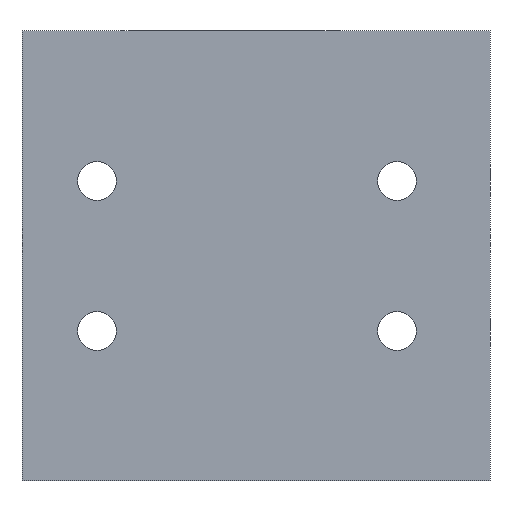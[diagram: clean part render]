
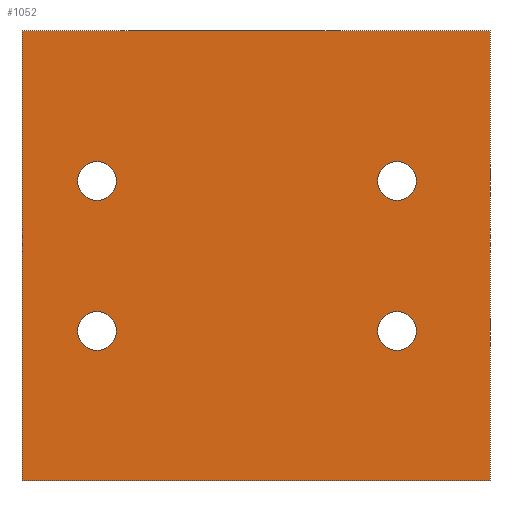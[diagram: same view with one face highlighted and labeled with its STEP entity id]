
A CAD part, front view. The second image highlights one B-rep face of the part: STEP entity #1052.
In plain terms, the highlighted planar face has unit normal (0, -1, 0).
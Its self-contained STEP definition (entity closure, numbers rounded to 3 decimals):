
#25 = ORIENTED_EDGE ( 'NONE', *, *, #1090, .T. ) ;
#52 = CARTESIAN_POINT ( 'NONE',  ( -15.5, 0., -9.25 ) ) ;
#66 = DIRECTION ( 'NONE',  ( 0., -1., 0. ) ) ;
#84 = CIRCLE ( 'NONE', #552, 3.25 ) ;
#105 = VERTEX_POINT ( 'NONE', #136 ) ;
#136 = CARTESIAN_POINT ( 'NONE',  ( 0., 0., -37.5 ) ) ;
#165 = CARTESIAN_POINT ( 'NONE',  ( -65.5, 0., 9.25 ) ) ;
#171 = CARTESIAN_POINT ( 'NONE',  ( -65.5, 0., -15.75 ) ) ;
#182 = CARTESIAN_POINT ( 'NONE',  ( -15.5, 0., -15.75 ) ) ;
#204 = AXIS2_PLACEMENT_3D ( 'NONE', #1572, #1748, #231 ) ;
#206 = PLANE ( 'NONE',  #1133 ) ;
#218 = CIRCLE ( 'NONE', #726, 3.25 ) ;
#222 = EDGE_LOOP ( 'NONE', ( #1266, #556, #1909, #480 ) ) ;
#231 = DIRECTION ( 'NONE',  ( 0., 0., 1. ) ) ;
#254 = ORIENTED_EDGE ( 'NONE', *, *, #1561, .T. ) ;
#263 = ORIENTED_EDGE ( 'NONE', *, *, #1641, .T. ) ;
#276 = CARTESIAN_POINT ( 'NONE',  ( -65.5, 0., -12.5 ) ) ;
#314 = DIRECTION ( 'NONE',  ( 0., 0., 1. ) ) ;
#349 = ORIENTED_EDGE ( 'NONE', *, *, #1863, .T. ) ;
#387 = EDGE_CURVE ( 'NONE', #935, #1663, #1116, .T. ) ;
#391 = AXIS2_PLACEMENT_3D ( 'NONE', #2066, #1406, #1910 ) ;
#403 = CIRCLE ( 'NONE', #713, 3.25 ) ;
#409 = CARTESIAN_POINT ( 'NONE',  ( -15.5, 0., 12.5 ) ) ;
#418 = DIRECTION ( 'NONE',  ( 0., 0., -1. ) ) ;
#434 = EDGE_CURVE ( 'NONE', #747, #901, #2082, .T. ) ;
#440 = EDGE_LOOP ( 'NONE', ( #1319, #25 ) ) ;
#480 = ORIENTED_EDGE ( 'NONE', *, *, #387, .T. ) ;
#486 = VERTEX_POINT ( 'NONE', #52 ) ;
#509 = DIRECTION ( 'NONE',  ( 0., 1., 0. ) ) ;
#518 = EDGE_CURVE ( 'NONE', #1834, #1944, #915, .T. ) ;
#552 = AXIS2_PLACEMENT_3D ( 'NONE', #1321, #509, #314 ) ;
#556 = ORIENTED_EDGE ( 'NONE', *, *, #1579, .F. ) ;
#557 = CARTESIAN_POINT ( 'NONE',  ( 0., 0., -37.5 ) ) ;
#594 = AXIS2_PLACEMENT_3D ( 'NONE', #2154, #1177, #822 ) ;
#627 = FACE_BOUND ( 'NONE', #440, .T. ) ;
#647 = VERTEX_POINT ( 'NONE', #1820 ) ;
#659 = ORIENTED_EDGE ( 'NONE', *, *, #2108, .T. ) ;
#713 = AXIS2_PLACEMENT_3D ( 'NONE', #2137, #1128, #1635 ) ;
#726 = AXIS2_PLACEMENT_3D ( 'NONE', #409, #1906, #1073 ) ;
#747 = VERTEX_POINT ( 'NONE', #1120 ) ;
#751 = EDGE_LOOP ( 'NONE', ( #349, #254 ) ) ;
#784 = FACE_BOUND ( 'NONE', #751, .T. ) ;
#793 = ORIENTED_EDGE ( 'NONE', *, *, #2030, .T. ) ;
#808 = CIRCLE ( 'NONE', #594, 3.25 ) ;
#822 = DIRECTION ( 'NONE',  ( 0., 0., 1. ) ) ;
#833 = LINE ( 'NONE', #1994, #1644 ) ;
#844 = CARTESIAN_POINT ( 'NONE',  ( -65.5, 0., -9.25 ) ) ;
#901 = VERTEX_POINT ( 'NONE', #165 ) ;
#915 = CIRCLE ( 'NONE', #1711, 3.25 ) ;
#935 = VERTEX_POINT ( 'NONE', #1881 ) ;
#979 = ORIENTED_EDGE ( 'NONE', *, *, #434, .T. ) ;
#994 = DIRECTION ( 'NONE',  ( 0., 1., 0. ) ) ;
#1052 = ADVANCED_FACE ( 'NONE', ( #627, #1586, #1275, #784, #1223 ), #206, .T. ) ;
#1067 = VECTOR ( 'NONE', #1238, 1000. ) ;
#1073 = DIRECTION ( 'NONE',  ( 0., 0., 1. ) ) ;
#1082 = EDGE_LOOP ( 'NONE', ( #979, #263 ) ) ;
#1090 = EDGE_CURVE ( 'NONE', #1944, #1834, #218, .T. ) ;
#1101 = EDGE_LOOP ( 'NONE', ( #659, #793 ) ) ;
#1116 = LINE ( 'NONE', #2075, #1067 ) ;
#1120 = CARTESIAN_POINT ( 'NONE',  ( -65.5, 0., 15.75 ) ) ;
#1128 = DIRECTION ( 'NONE',  ( 0., 1., 0. ) ) ;
#1133 = AXIS2_PLACEMENT_3D ( 'NONE', #1383, #66, #418 ) ;
#1153 = DIRECTION ( 'NONE',  ( 0., 0., 1. ) ) ;
#1177 = DIRECTION ( 'NONE',  ( 0., 1., 0. ) ) ;
#1223 = FACE_OUTER_BOUND ( 'NONE', #222, .T. ) ;
#1238 = DIRECTION ( 'NONE',  ( 0., 0., -1. ) ) ;
#1242 = VECTOR ( 'NONE', #1662, 1000. ) ;
#1266 = ORIENTED_EDGE ( 'NONE', *, *, #1891, .F. ) ;
#1275 = FACE_BOUND ( 'NONE', #1082, .T. ) ;
#1278 = DIRECTION ( 'NONE',  ( 0., 1., 0. ) ) ;
#1319 = ORIENTED_EDGE ( 'NONE', *, *, #518, .T. ) ;
#1321 = CARTESIAN_POINT ( 'NONE',  ( -65.5, 0., 12.5 ) ) ;
#1383 = CARTESIAN_POINT ( 'NONE',  ( 0., 0., 37.5 ) ) ;
#1393 = DIRECTION ( 'NONE',  ( -1., 0., 0. ) ) ;
#1399 = VECTOR ( 'NONE', #1393, 1000. ) ;
#1406 = DIRECTION ( 'NONE',  ( 0., 1., 0. ) ) ;
#1407 = CARTESIAN_POINT ( 'NONE',  ( -15.5, 0., 15.75 ) ) ;
#1503 = LINE ( 'NONE', #557, #1399 ) ;
#1505 = CARTESIAN_POINT ( 'NONE',  ( -78., 0., -37.5 ) ) ;
#1531 = LINE ( 'NONE', #1836, #1242 ) ;
#1561 = EDGE_CURVE ( 'NONE', #1689, #486, #808, .T. ) ;
#1572 = CARTESIAN_POINT ( 'NONE',  ( -15.5, 0., -12.5 ) ) ;
#1579 = EDGE_CURVE ( 'NONE', #647, #105, #1531, .T. ) ;
#1586 = FACE_BOUND ( 'NONE', #1101, .T. ) ;
#1606 = DIRECTION ( 'NONE',  ( 0., 0., 1. ) ) ;
#1626 = EDGE_CURVE ( 'NONE', #647, #935, #833, .T. ) ;
#1635 = DIRECTION ( 'NONE',  ( 0., 0., 1. ) ) ;
#1641 = EDGE_CURVE ( 'NONE', #901, #747, #84, .T. ) ;
#1644 = VECTOR ( 'NONE', #2146, 1000. ) ;
#1654 = VERTEX_POINT ( 'NONE', #844 ) ;
#1662 = DIRECTION ( 'NONE',  ( 0., 0., -1. ) ) ;
#1663 = VERTEX_POINT ( 'NONE', #1505 ) ;
#1668 = VERTEX_POINT ( 'NONE', #171 ) ;
#1689 = VERTEX_POINT ( 'NONE', #182 ) ;
#1711 = AXIS2_PLACEMENT_3D ( 'NONE', #1754, #1278, #1606 ) ;
#1748 = DIRECTION ( 'NONE',  ( 0., 1., 0. ) ) ;
#1752 = CARTESIAN_POINT ( 'NONE',  ( -15.5, 0., 9.25 ) ) ;
#1754 = CARTESIAN_POINT ( 'NONE',  ( -15.5, 0., 12.5 ) ) ;
#1793 = AXIS2_PLACEMENT_3D ( 'NONE', #276, #994, #1153 ) ;
#1820 = CARTESIAN_POINT ( 'NONE',  ( 0., 0., 37.5 ) ) ;
#1834 = VERTEX_POINT ( 'NONE', #1407 ) ;
#1836 = CARTESIAN_POINT ( 'NONE',  ( 0., 0., 37.5 ) ) ;
#1863 = EDGE_CURVE ( 'NONE', #486, #1689, #1899, .T. ) ;
#1881 = CARTESIAN_POINT ( 'NONE',  ( -78., 0., 37.5 ) ) ;
#1891 = EDGE_CURVE ( 'NONE', #105, #1663, #1503, .T. ) ;
#1899 = CIRCLE ( 'NONE', #204, 3.25 ) ;
#1906 = DIRECTION ( 'NONE',  ( 0., 1., 0. ) ) ;
#1909 = ORIENTED_EDGE ( 'NONE', *, *, #1626, .T. ) ;
#1910 = DIRECTION ( 'NONE',  ( 0., 0., 1. ) ) ;
#1944 = VERTEX_POINT ( 'NONE', #1752 ) ;
#1994 = CARTESIAN_POINT ( 'NONE',  ( 0., 0., 37.5 ) ) ;
#2030 = EDGE_CURVE ( 'NONE', #1668, #1654, #403, .T. ) ;
#2031 = CIRCLE ( 'NONE', #1793, 3.25 ) ;
#2066 = CARTESIAN_POINT ( 'NONE',  ( -65.5, 0., 12.5 ) ) ;
#2075 = CARTESIAN_POINT ( 'NONE',  ( -78., 0., 37.5 ) ) ;
#2082 = CIRCLE ( 'NONE', #391, 3.25 ) ;
#2108 = EDGE_CURVE ( 'NONE', #1654, #1668, #2031, .T. ) ;
#2137 = CARTESIAN_POINT ( 'NONE',  ( -65.5, 0., -12.5 ) ) ;
#2146 = DIRECTION ( 'NONE',  ( -1., 0., 0. ) ) ;
#2154 = CARTESIAN_POINT ( 'NONE',  ( -15.5, 0., -12.5 ) ) ;
